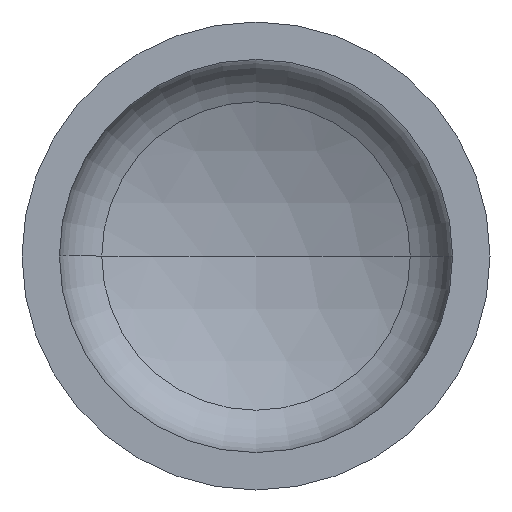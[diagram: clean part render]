
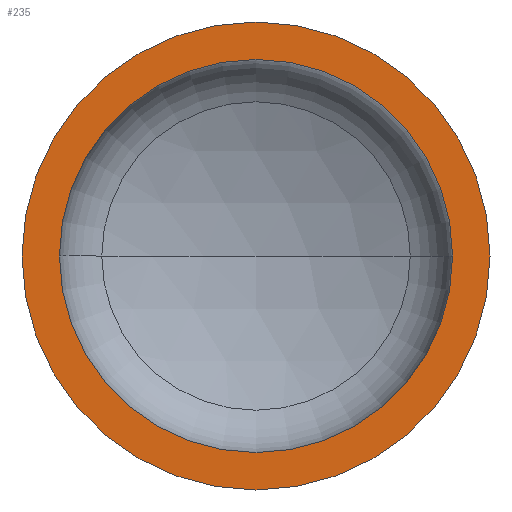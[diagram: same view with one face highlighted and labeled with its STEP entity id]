
A CAD part, front view. The second image highlights one B-rep face of the part: STEP entity #235.
In plain terms, the highlighted planar face has unit normal (0, -1, 0).
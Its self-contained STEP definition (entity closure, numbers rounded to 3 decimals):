
#5 = EDGE_LOOP ( 'NONE', ( #16, #58 ) ) ;
#13 = PLANE ( 'NONE',  #69 ) ;
#14 = VERTEX_POINT ( 'NONE', #288 ) ;
#16 = ORIENTED_EDGE ( 'NONE', *, *, #125, .T. ) ;
#36 = EDGE_LOOP ( 'NONE', ( #67, #99 ) ) ;
#49 = VERTEX_POINT ( 'NONE', #243 ) ;
#58 = ORIENTED_EDGE ( 'NONE', *, *, #130, .T. ) ;
#67 = ORIENTED_EDGE ( 'NONE', *, *, #131, .F. ) ;
#69 = AXIS2_PLACEMENT_3D ( 'NONE', #302, #294, #255 ) ;
#84 = VERTEX_POINT ( 'NONE', #228 ) ;
#92 = AXIS2_PLACEMENT_3D ( 'NONE', #181, #180, #177 ) ;
#96 = VERTEX_POINT ( 'NONE', #227 ) ;
#99 = ORIENTED_EDGE ( 'NONE', *, *, #303, .F. ) ;
#105 = AXIS2_PLACEMENT_3D ( 'NONE', #297, #295, #218 ) ;
#109 = AXIS2_PLACEMENT_3D ( 'NONE', #290, #183, #195 ) ;
#117 = AXIS2_PLACEMENT_3D ( 'NONE', #186, #200, #201 ) ;
#118 = CIRCLE ( 'NONE', #92, 546. ) ;
#125 = EDGE_CURVE ( 'NONE', #96, #49, #407, .T. ) ;
#130 = EDGE_CURVE ( 'NONE', #49, #96, #208, .T. ) ;
#131 = EDGE_CURVE ( 'NONE', #84, #14, #142, .T. ) ;
#142 = CIRCLE ( 'NONE', #105, 546. ) ;
#177 = DIRECTION ( 'NONE',  ( 1., 0., 0. ) ) ;
#180 = DIRECTION ( 'NONE',  ( 0., -1., 0. ) ) ;
#181 = CARTESIAN_POINT ( 'NONE',  ( 0., 0., 0. ) ) ;
#183 = DIRECTION ( 'NONE',  ( 0., -1., 0. ) ) ;
#186 = CARTESIAN_POINT ( 'NONE',  ( 0., 0., 0. ) ) ;
#195 = DIRECTION ( 'NONE',  ( 1., 0., 0. ) ) ;
#200 = DIRECTION ( 'NONE',  ( 0., -1., 0. ) ) ;
#201 = DIRECTION ( 'NONE',  ( 1., 0., 0. ) ) ;
#208 = CIRCLE ( 'NONE', #109, 650. ) ;
#218 = DIRECTION ( 'NONE',  ( 1., 0., 0. ) ) ;
#227 = CARTESIAN_POINT ( 'NONE',  ( 650., 0., 0. ) ) ;
#228 = CARTESIAN_POINT ( 'NONE',  ( 546., 0., 0. ) ) ;
#235 = ADVANCED_FACE ( 'NONE', ( #315, #322 ), #13, .F. ) ;
#243 = CARTESIAN_POINT ( 'NONE',  ( -650., 0., 0. ) ) ;
#255 = DIRECTION ( 'NONE',  ( -1., 0., 0. ) ) ;
#288 = CARTESIAN_POINT ( 'NONE',  ( -546., 0., 0. ) ) ;
#290 = CARTESIAN_POINT ( 'NONE',  ( 0., 0., 0. ) ) ;
#294 = DIRECTION ( 'NONE',  ( 0., 1., 0. ) ) ;
#295 = DIRECTION ( 'NONE',  ( 0., -1., 0. ) ) ;
#297 = CARTESIAN_POINT ( 'NONE',  ( 0., 0., 0. ) ) ;
#302 = CARTESIAN_POINT ( 'NONE',  ( -650., 0., 0. ) ) ;
#303 = EDGE_CURVE ( 'NONE', #14, #84, #118, .T. ) ;
#315 = FACE_BOUND ( 'NONE', #36, .T. ) ;
#322 = FACE_OUTER_BOUND ( 'NONE', #5, .T. ) ;
#407 = CIRCLE ( 'NONE', #117, 650. ) ;
